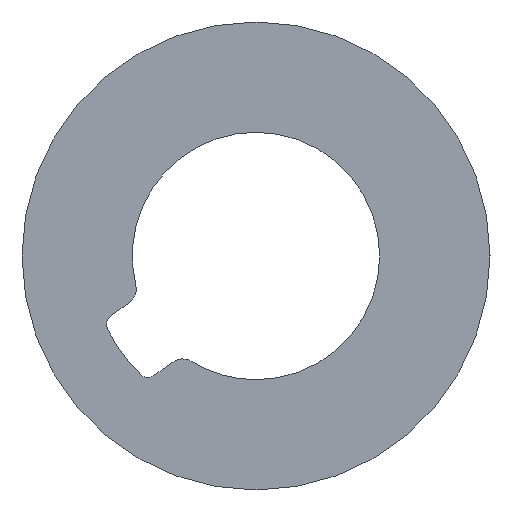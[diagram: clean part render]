
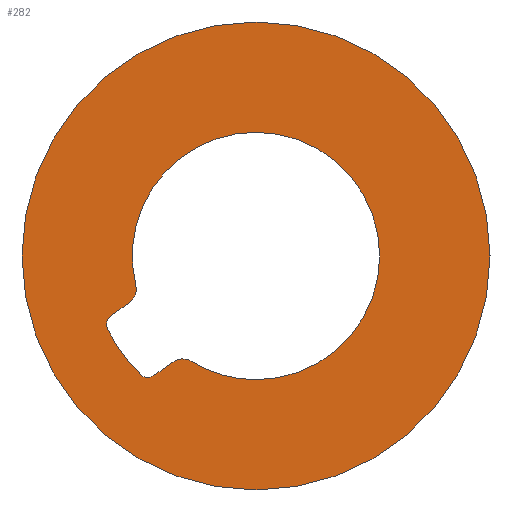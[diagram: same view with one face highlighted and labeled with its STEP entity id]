
A CAD part, left-side view. The second image highlights one B-rep face of the part: STEP entity #282.
In plain terms, the highlighted planar face has unit normal (-1, 0, 0).
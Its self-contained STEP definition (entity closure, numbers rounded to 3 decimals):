
#24 = AXIS2_PLACEMENT_3D ( 'NONE', #406, #405, #404 ) ;
#27 = AXIS2_PLACEMENT_3D ( 'NONE', #422, #421, #419 ) ;
#34 = AXIS2_PLACEMENT_3D ( 'NONE', #457, #456, #455 ) ;
#36 = AXIS2_PLACEMENT_3D ( 'NONE', #474, #472, #471 ) ;
#38 = AXIS2_PLACEMENT_3D ( 'NONE', #486, #485, #484 ) ;
#40 = AXIS2_PLACEMENT_3D ( 'NONE', #502, #500, #499 ) ;
#42 = AXIS2_PLACEMENT_3D ( 'NONE', #523, #522, #521 ) ;
#43 = AXIS2_PLACEMENT_3D ( 'NONE', #300, #525, #524 ) ;
#44 = AXIS2_PLACEMENT_3D ( 'NONE', #347, #317, #311 ) ;
#45 = AXIS2_PLACEMENT_3D ( 'NONE', #379, #376, #370 ) ;
#47 = AXIS2_PLACEMENT_3D ( 'NONE', #413, #412, #408 ) ;
#48 = AXIS2_PLACEMENT_3D ( 'NONE', #427, #424, #420 ) ;
#49 = EDGE_CURVE ( 'NONE', #492, #478, #228, .T. ) ;
#50 = EDGE_CURVE ( 'NONE', #448, #496, #225, .T. ) ;
#53 = EDGE_CURVE ( 'NONE', #458, #498, #219, .T. ) ;
#54 = EDGE_CURVE ( 'NONE', #498, #503, #220, .T. ) ;
#55 = EDGE_CURVE ( 'NONE', #503, #448, #215, .T. ) ;
#56 = EDGE_CURVE ( 'NONE', #496, #479, #214, .T. ) ;
#57 = EDGE_CURVE ( 'NONE', #479, #483, #212, .T. ) ;
#66 = EDGE_CURVE ( 'NONE', #501, #482, #188, .T. ) ;
#70 = EDGE_CURVE ( 'NONE', #453, #487, #182, .T. ) ;
#73 = EDGE_CURVE ( 'NONE', #478, #453, #178, .T. ) ;
#77 = EDGE_CURVE ( 'NONE', #487, #458, #173, .T. ) ;
#86 = EDGE_CURVE ( 'NONE', #482, #501, #157, .T. ) ;
#87 = EDGE_CURVE ( 'NONE', #483, #492, #162, .T. ) ;
#122 = ORIENTED_EDGE ( 'NONE', *, *, #87, .T. ) ;
#123 = ORIENTED_EDGE ( 'NONE', *, *, #66, .F. ) ;
#124 = ORIENTED_EDGE ( 'NONE', *, *, #86, .F. ) ;
#125 = ORIENTED_EDGE ( 'NONE', *, *, #49, .T. ) ;
#126 = ORIENTED_EDGE ( 'NONE', *, *, #70, .T. ) ;
#127 = ORIENTED_EDGE ( 'NONE', *, *, #73, .T. ) ;
#134 = FACE_BOUND ( 'NONE', #234, .T. ) ;
#136 = FACE_OUTER_BOUND ( 'NONE', #235, .T. ) ;
#138 = ORIENTED_EDGE ( 'NONE', *, *, #54, .T. ) ;
#139 = ORIENTED_EDGE ( 'NONE', *, *, #53, .T. ) ;
#140 = ORIENTED_EDGE ( 'NONE', *, *, #77, .T. ) ;
#141 = ORIENTED_EDGE ( 'NONE', *, *, #56, .T. ) ;
#142 = ORIENTED_EDGE ( 'NONE', *, *, #50, .T. ) ;
#143 = ORIENTED_EDGE ( 'NONE', *, *, #55, .T. ) ;
#144 = ORIENTED_EDGE ( 'NONE', *, *, #57, .T. ) ;
#156 = VECTOR ( 'NONE', #417, 1000. ) ;
#157 = CIRCLE ( 'NONE', #27, 7. ) ;
#162 = LINE ( 'NONE', #418, #156 ) ;
#173 = CIRCLE ( 'NONE', #34, 3.7 ) ;
#178 = CIRCLE ( 'NONE', #36, 3.7 ) ;
#182 = CIRCLE ( 'NONE', #38, 3.7 ) ;
#188 = CIRCLE ( 'NONE', #40, 7. ) ;
#212 = CIRCLE ( 'NONE', #42, 0.3 ) ;
#214 = CIRCLE ( 'NONE', #43, 4.95 ) ;
#215 = CIRCLE ( 'NONE', #44, 0.3 ) ;
#218 = VECTOR ( 'NONE', #351, 1000. ) ;
#219 = CIRCLE ( 'NONE', #45, 0.5 ) ;
#220 = LINE ( 'NONE', #352, #218 ) ;
#225 = CIRCLE ( 'NONE', #47, 0.3 ) ;
#228 = CIRCLE ( 'NONE', #48, 0.5 ) ;
#234 = EDGE_LOOP ( 'NONE', ( #122, #125, #127, #126, #140, #139, #138, #143, #142, #141, #144 ) ) ;
#235 = EDGE_LOOP ( 'NONE', ( #124, #123 ) ) ;
#282 = ADVANCED_FACE ( 'NONE', ( #136, #134 ), #407, .F. ) ;
#300 = CARTESIAN_POINT ( 'NONE',  ( -139.5, 0., 0. ) ) ;
#311 = DIRECTION ( 'NONE',  ( 0., 0., 1. ) ) ;
#316 = CARTESIAN_POINT ( 'NONE',  ( -139.5, 3.059, -3.582 ) ) ;
#317 = DIRECTION ( 'NONE',  ( 1., 0., 0. ) ) ;
#318 = CARTESIAN_POINT ( 'NONE',  ( -139.5, 0., -7. ) ) ;
#319 = CARTESIAN_POINT ( 'NONE',  ( -139.5, 2.495, -3.172 ) ) ;
#320 = CARTESIAN_POINT ( 'NONE',  ( -139.5, 3.444, -3.555 ) ) ;
#325 = CARTESIAN_POINT ( 'NONE',  ( -139.5, 3.788, -1.393 ) ) ;
#326 = CARTESIAN_POINT ( 'NONE',  ( -139.5, 0., -3.7 ) ) ;
#327 = CARTESIAN_POINT ( 'NONE',  ( -139.5, 4.352, -1.803 ) ) ;
#328 = CARTESIAN_POINT ( 'NONE',  ( -139.5, 0., 7. ) ) ;
#329 = CARTESIAN_POINT ( 'NONE',  ( -139.5, 4.445, -2.177 ) ) ;
#330 = CARTESIAN_POINT ( 'NONE',  ( -139.5, 3.596, -0.87 ) ) ;
#337 = CARTESIAN_POINT ( 'NONE',  ( -139.5, 1.939, -3.151 ) ) ;
#338 = CARTESIAN_POINT ( 'NONE',  ( -139.5, 0., 3.7 ) ) ;
#340 = CARTESIAN_POINT ( 'NONE',  ( -139.5, 3.236, -3.64 ) ) ;
#347 = CARTESIAN_POINT ( 'NONE',  ( -139.5, 3.236, -3.34 ) ) ;
#351 = DIRECTION ( 'NONE',  ( 0., 0.809, -0.588 ) ) ;
#352 = CARTESIAN_POINT ( 'NONE',  ( -139.5, 3.059, -3.582 ) ) ;
#370 = DIRECTION ( 'NONE',  ( 0., 0., -1. ) ) ;
#376 = DIRECTION ( 'NONE',  ( -1., 0., 0. ) ) ;
#379 = CARTESIAN_POINT ( 'NONE',  ( -139.5, 2.201, -3.577 ) ) ;
#404 = DIRECTION ( 'NONE',  ( 0., 0., -1. ) ) ;
#405 = DIRECTION ( 'NONE',  ( 1., 0., 0. ) ) ;
#406 = CARTESIAN_POINT ( 'NONE',  ( -139.5, 0., 0. ) ) ;
#407 = PLANE ( 'NONE',  #24 ) ;
#408 = DIRECTION ( 'NONE',  ( 0., 0., 1. ) ) ;
#412 = DIRECTION ( 'NONE',  ( 1., 0., 0. ) ) ;
#413 = CARTESIAN_POINT ( 'NONE',  ( -139.5, 3.236, -3.34 ) ) ;
#417 = DIRECTION ( 'NONE',  ( 0., -0.809, 0.588 ) ) ;
#418 = CARTESIAN_POINT ( 'NONE',  ( -139.5, 3.788, -1.393 ) ) ;
#419 = DIRECTION ( 'NONE',  ( 0., 0., -1. ) ) ;
#420 = DIRECTION ( 'NONE',  ( 0., 0., 1. ) ) ;
#421 = DIRECTION ( 'NONE',  ( 1., 0., 0. ) ) ;
#422 = CARTESIAN_POINT ( 'NONE',  ( -139.5, 0., 0. ) ) ;
#424 = DIRECTION ( 'NONE',  ( -1., 0., 0. ) ) ;
#427 = CARTESIAN_POINT ( 'NONE',  ( -139.5, 4.082, -0.988 ) ) ;
#448 = VERTEX_POINT ( 'NONE', #340 ) ;
#453 = VERTEX_POINT ( 'NONE', #338 ) ;
#455 = DIRECTION ( 'NONE',  ( 0., 0., -1. ) ) ;
#456 = DIRECTION ( 'NONE',  ( 1., 0., 0. ) ) ;
#457 = CARTESIAN_POINT ( 'NONE',  ( -139.5, 0., 0. ) ) ;
#458 = VERTEX_POINT ( 'NONE', #337 ) ;
#471 = DIRECTION ( 'NONE',  ( 0., 0., -1. ) ) ;
#472 = DIRECTION ( 'NONE',  ( 1., 0., 0. ) ) ;
#474 = CARTESIAN_POINT ( 'NONE',  ( -139.5, 0., 0. ) ) ;
#478 = VERTEX_POINT ( 'NONE', #330 ) ;
#479 = VERTEX_POINT ( 'NONE', #329 ) ;
#482 = VERTEX_POINT ( 'NONE', #328 ) ;
#483 = VERTEX_POINT ( 'NONE', #327 ) ;
#484 = DIRECTION ( 'NONE',  ( 0., 0., -1. ) ) ;
#485 = DIRECTION ( 'NONE',  ( 1., 0., 0. ) ) ;
#486 = CARTESIAN_POINT ( 'NONE',  ( -139.5, 0., 0. ) ) ;
#487 = VERTEX_POINT ( 'NONE', #326 ) ;
#492 = VERTEX_POINT ( 'NONE', #325 ) ;
#496 = VERTEX_POINT ( 'NONE', #320 ) ;
#498 = VERTEX_POINT ( 'NONE', #319 ) ;
#499 = DIRECTION ( 'NONE',  ( 0., 0., -1. ) ) ;
#500 = DIRECTION ( 'NONE',  ( 1., 0., 0. ) ) ;
#501 = VERTEX_POINT ( 'NONE', #318 ) ;
#502 = CARTESIAN_POINT ( 'NONE',  ( -139.5, 0., 0. ) ) ;
#503 = VERTEX_POINT ( 'NONE', #316 ) ;
#521 = DIRECTION ( 'NONE',  ( 0., 0., -1. ) ) ;
#522 = DIRECTION ( 'NONE',  ( 1., 0., 0. ) ) ;
#523 = CARTESIAN_POINT ( 'NONE',  ( -139.5, 4.176, -2.045 ) ) ;
#524 = DIRECTION ( 'NONE',  ( 0., 0., 1. ) ) ;
#525 = DIRECTION ( 'NONE',  ( 1., 0., 0. ) ) ;
